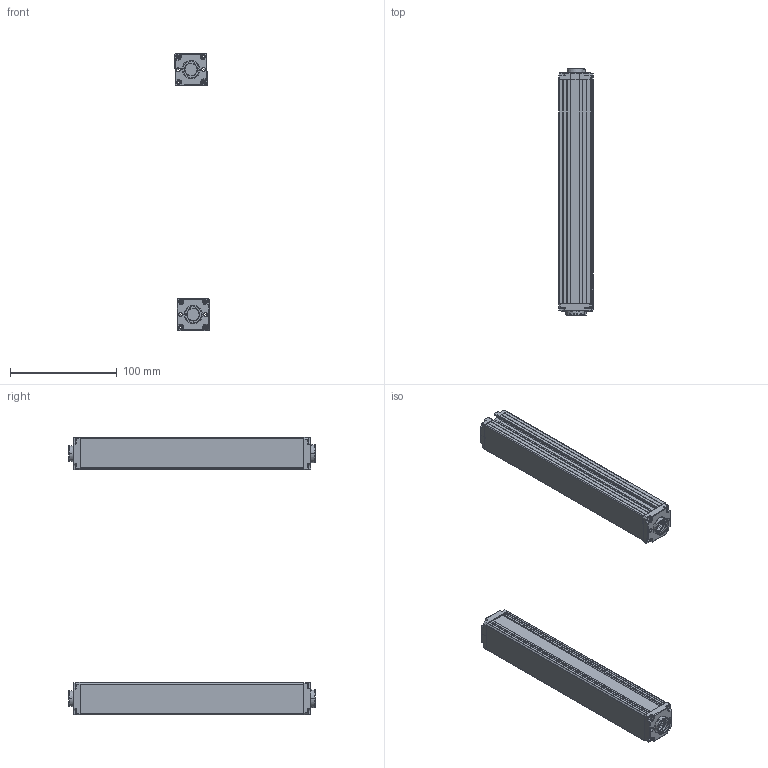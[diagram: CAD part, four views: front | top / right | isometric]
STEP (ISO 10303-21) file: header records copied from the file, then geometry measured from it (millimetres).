
FILE_DESCRIPTION (( 'STEP AP203' ), '1' );
FILE_NAME ('ZDA1020-210.STEP', '2022-08-30T07:26:09', ( 'Windows 蚚誧' ), ( 'Organization' ), 'SwSTEP 2.0', 'SolidWorks 2020', '' );
FILE_SCHEMA (( 'CONFIG_CONTROL_DESIGN' ));
Length unit declared in the file: millimetre
Products named in the file (5): 錨璃8 - 萵掛 (2); 錨璃10; ZDA1020-210; 錨璃1; 錨璃8
Assembly tree (8 placements, depth 2):
  ZDA1020-210
    錨璃1  x2
    錨璃8  x2
    錨璃8 - 萵掛 (2)  x2
    錨璃10  x2
Bounding box: 32.36 x 231.4 x 260.35 mm (x, y, z)
Volume: 142607.9 mm3; surface area: 153571.1 mm2
Topology: 8 solids, 8 shells, 1032 faces, 2690 edges, 1668 vertices
Faces by surface type: plane 464, cylinder 310, cone 120, bspline 58, torus 48, sphere 32
Entity records: 17901 total; most frequent: CARTESIAN_POINT 4731, ORIENTED_EDGE 2666, DIRECTION 2616, EDGE_CURVE 1333, AXIS2_PLACEMENT_3D 894, VERTEX_POINT 834, VECTOR 828, LINE 828
